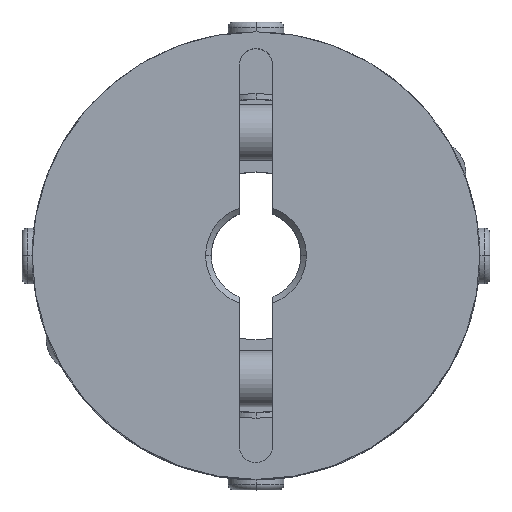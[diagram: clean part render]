
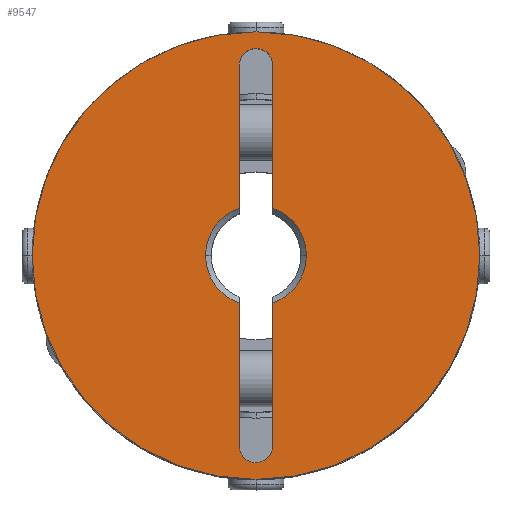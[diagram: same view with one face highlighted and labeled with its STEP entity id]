
A CAD part, top view. The second image highlights one B-rep face of the part: STEP entity #9547.
In plain terms, the highlighted planar face has unit normal (0, 0, 1).
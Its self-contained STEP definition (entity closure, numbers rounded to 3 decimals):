
#829=CARTESIAN_POINT('',(-20.0,0.,20.0));
#830=VERTEX_POINT('',#829);
#837=CARTESIAN_POINT('',(20.0,0.0,20.0));
#838=VERTEX_POINT('',#837);
#839=CARTESIAN_POINT('',(0.0,0.0,20.0));
#840=DIRECTION('',(0.0,0.0,-1.0));
#841=DIRECTION('',(1.0,0.0,0.0));
#842=AXIS2_PLACEMENT_3D('',#839,#840,#841);
#843=CIRCLE('',#842,20.0);
#844=EDGE_CURVE('',#830,#838,#843,.T.);
#1155=CARTESIAN_POINT('',(-1.061,18.061,20.0));
#1156=VERTEX_POINT('',#1155);
#1172=CARTESIAN_POINT('',(1.5,17.,20.0));
#1173=VERTEX_POINT('',#1172);
#1180=CARTESIAN_POINT('',(0.,17.,20.0));
#1181=DIRECTION('',(0.0,0.0,1.));
#1182=DIRECTION('',(0.707,0.707,0.0));
#1183=AXIS2_PLACEMENT_3D('',#1180,#1181,#1182);
#1184=CIRCLE('',#1183,1.5);
#1185=EDGE_CURVE('',#1173,#1156,#1184,.T.);
#1197=CARTESIAN_POINT('',(1.061,-18.061,20.0));
#1198=VERTEX_POINT('',#1197);
#1214=CARTESIAN_POINT('',(-1.5,-17.,20.0));
#1215=VERTEX_POINT('',#1214);
#1222=CARTESIAN_POINT('',(0.0,-17.,20.0));
#1223=DIRECTION('',(0.0,0.0,1.0));
#1224=DIRECTION('',(-0.707,-0.707,0.0));
#1225=AXIS2_PLACEMENT_3D('',#1222,#1223,#1224);
#1226=CIRCLE('',#1225,1.5);
#1227=EDGE_CURVE('',#1215,#1198,#1226,.T.);
#1237=CARTESIAN_POINT('',(-4.5,0.,20.0));
#1238=VERTEX_POINT('',#1237);
#1245=CARTESIAN_POINT('',(-1.5,-4.243,20.0));
#1246=VERTEX_POINT('',#1245);
#1247=CARTESIAN_POINT('',(0.0,0.0,20.0));
#1248=DIRECTION('',(0.0,0.0,1.0));
#1249=DIRECTION('',(-1.0,0.0,0.0));
#1250=AXIS2_PLACEMENT_3D('',#1247,#1248,#1249);
#1251=CIRCLE('',#1250,4.5);
#1252=EDGE_CURVE('',#1238,#1246,#1251,.T.);
#1276=CARTESIAN_POINT('',(4.5,0.,20.0));
#1277=VERTEX_POINT('',#1276);
#1284=CARTESIAN_POINT('',(1.5,4.243,20.0));
#1285=VERTEX_POINT('',#1284);
#1286=CARTESIAN_POINT('',(0.0,0.0,20.0));
#1287=DIRECTION('',(0.0,0.0,1.0));
#1288=DIRECTION('',(1.0,0.0,0.0));
#1289=AXIS2_PLACEMENT_3D('',#1286,#1287,#1288);
#1290=CIRCLE('',#1289,4.5);
#1291=EDGE_CURVE('',#1277,#1285,#1290,.T.);
#9352=CARTESIAN_POINT('',(-1.5,17.,20.0));
#9353=VERTEX_POINT('',#9352);
#9360=CARTESIAN_POINT('',(-1.5,4.243,20.0));
#9361=VERTEX_POINT('',#9360);
#9362=CARTESIAN_POINT('',(-1.5,4.243,20.0));
#9363=DIRECTION('',(0.0,1.0,0.0));
#9364=VECTOR('',#9363,12.757);
#9365=LINE('',#9362,#9364);
#9366=EDGE_CURVE('',#9361,#9353,#9365,.T.);
#9441=CARTESIAN_POINT('',(1.5,17.,20.0));
#9442=DIRECTION('',(0.0,-1.0,0.0));
#9443=VECTOR('',#9442,12.757);
#9444=LINE('',#9441,#9443);
#9445=EDGE_CURVE('',#1173,#1285,#9444,.T.);
#9463=CARTESIAN_POINT('',(1.5,-4.243,20.0));
#9464=VERTEX_POINT('',#9463);
#9478=CARTESIAN_POINT('',(0.0,0.0,20.0));
#9479=DIRECTION('',(0.0,0.0,1.0));
#9480=DIRECTION('',(1.0,0.0,0.0));
#9481=AXIS2_PLACEMENT_3D('',#9478,#9479,#9480);
#9482=CIRCLE('',#9481,4.5);
#9483=EDGE_CURVE('',#9464,#1277,#9482,.T.);
#9488=CARTESIAN_POINT('',(1.818,0.,20.0));
#9489=DIRECTION('',(0.0,0.0,1.0));
#9490=DIRECTION('',(1.0,0.0,0.0));
#9491=AXIS2_PLACEMENT_3D('',#9488,#9489,#9490);
#9492=PLANE('',#9491);
#9493=CARTESIAN_POINT('',(0.0,0.0,20.0));
#9494=DIRECTION('',(0.0,0.0,-1.0));
#9495=DIRECTION('',(1.0,0.0,0.0));
#9496=AXIS2_PLACEMENT_3D('',#9493,#9494,#9495);
#9497=CIRCLE('',#9496,20.0);
#9498=EDGE_CURVE('',#838,#830,#9497,.T.);
#9499=ORIENTED_EDGE('',*,*,#9498,.F.);
#9500=ORIENTED_EDGE('',*,*,#844,.F.);
#9501=EDGE_LOOP('',(#9499,#9500));
#9502=FACE_OUTER_BOUND('',#9501,.T.);
#9503=ORIENTED_EDGE('',*,*,#9483,.F.);
#9504=CARTESIAN_POINT('',(1.5,-17.,20.0));
#9505=VERTEX_POINT('',#9504);
#9506=CARTESIAN_POINT('',(1.5,-4.243,20.0));
#9507=DIRECTION('',(0.0,-1.0,0.0));
#9508=VECTOR('',#9507,12.757);
#9509=LINE('',#9506,#9508);
#9510=EDGE_CURVE('',#9464,#9505,#9509,.T.);
#9511=ORIENTED_EDGE('',*,*,#9510,.T.);
#9512=CARTESIAN_POINT('',(0.0,-17.,20.0));
#9513=DIRECTION('',(0.0,0.0,1.0));
#9514=DIRECTION('',(-0.707,-0.707,0.0));
#9515=AXIS2_PLACEMENT_3D('',#9512,#9513,#9514);
#9516=CIRCLE('',#9515,1.5);
#9517=EDGE_CURVE('',#1198,#9505,#9516,.T.);
#9518=ORIENTED_EDGE('',*,*,#9517,.F.);
#9519=ORIENTED_EDGE('',*,*,#1227,.F.);
#9520=CARTESIAN_POINT('',(-1.5,-17.,20.0));
#9521=DIRECTION('',(0.0,1.0,0.0));
#9522=VECTOR('',#9521,12.757);
#9523=LINE('',#9520,#9522);
#9524=EDGE_CURVE('',#1215,#1246,#9523,.T.);
#9525=ORIENTED_EDGE('',*,*,#9524,.T.);
#9526=ORIENTED_EDGE('',*,*,#1252,.F.);
#9527=CARTESIAN_POINT('',(0.0,0.0,20.0));
#9528=DIRECTION('',(0.0,0.0,1.0));
#9529=DIRECTION('',(-1.0,0.0,0.0));
#9530=AXIS2_PLACEMENT_3D('',#9527,#9528,#9529);
#9531=CIRCLE('',#9530,4.5);
#9532=EDGE_CURVE('',#9361,#1238,#9531,.T.);
#9533=ORIENTED_EDGE('',*,*,#9532,.F.);
#9534=ORIENTED_EDGE('',*,*,#9366,.T.);
#9535=CARTESIAN_POINT('',(0.,17.,20.0));
#9536=DIRECTION('',(0.0,0.0,1.));
#9537=DIRECTION('',(0.707,0.707,0.0));
#9538=AXIS2_PLACEMENT_3D('',#9535,#9536,#9537);
#9539=CIRCLE('',#9538,1.5);
#9540=EDGE_CURVE('',#1156,#9353,#9539,.T.);
#9541=ORIENTED_EDGE('',*,*,#9540,.F.);
#9542=ORIENTED_EDGE('',*,*,#1185,.F.);
#9543=ORIENTED_EDGE('',*,*,#9445,.T.);
#9544=ORIENTED_EDGE('',*,*,#1291,.F.);
#9545=EDGE_LOOP('',(#9503,#9511,#9518,#9519,#9525,#9526,#9533,#9534,#9541,#9542,#9543,#9544));
#9546=FACE_BOUND('',#9545,.T.);
#9547=ADVANCED_FACE('',(#9502,#9546),#9492,.T.);
